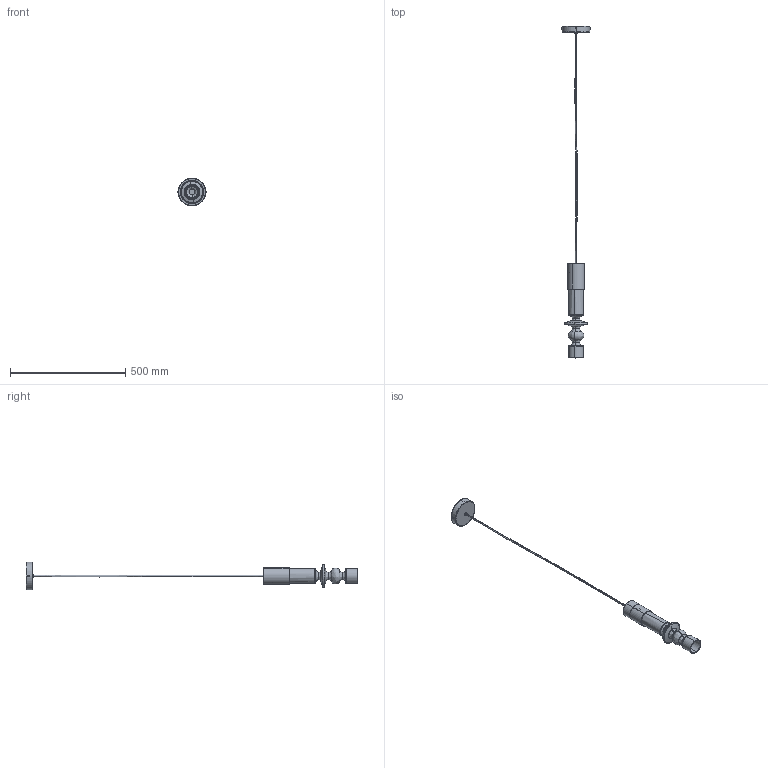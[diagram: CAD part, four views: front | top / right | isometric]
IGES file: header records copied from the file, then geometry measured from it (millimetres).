
Start section: SolidWorks IGES file using analytic representation for surfaces
Global section: file name: G:\Drive condivisi\Ufficio Tecnico\Research\X21 Filamento\Progetto\ATC-X21-S6 Sop. Vert\Architetti\Filamento Vertical 41, Shape1.IGS; native system: SolidWorks 2025; preprocessor: SolidWorks 2025; author: Tecnico01; date: 260430.113213; units: millimetre
Bounding box: 124.4 x 1442 x 120 mm (x, y, z)
Surface area: 296987.9 mm2 (no closed solid volume)
Topology: 0 solids, 0 shells, 254 faces, 3816 edges, 3812 vertices
Faces by surface type: bspline 127, revolution 127
